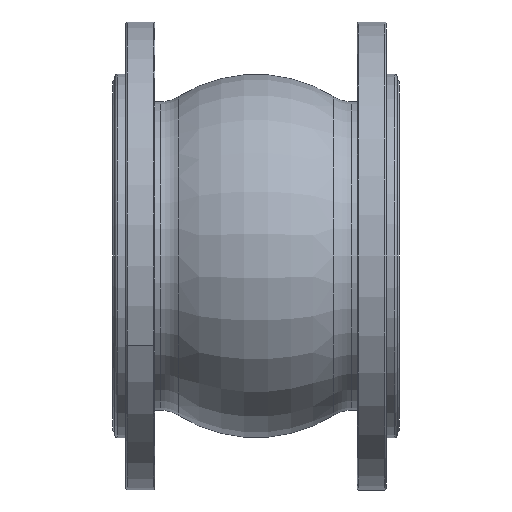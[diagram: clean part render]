
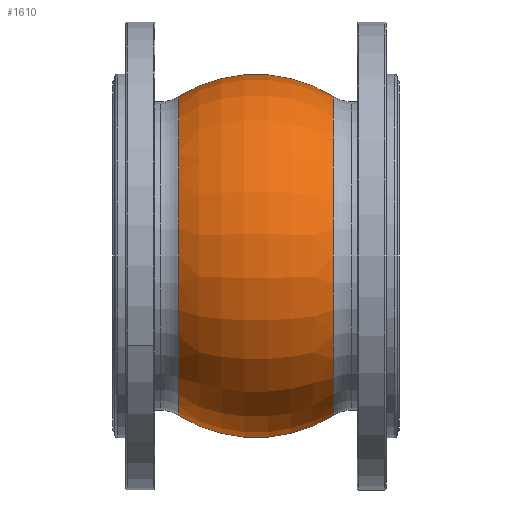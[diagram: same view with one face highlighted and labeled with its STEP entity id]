
A CAD part, front view. The second image highlights one B-rep face of the part: STEP entity #1610.
In plain terms, the highlighted toroidal (fillet/blend) face has major radius 26.07 mm and minor radius 105.93 mm.
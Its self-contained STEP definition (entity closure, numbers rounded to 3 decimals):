
#46 = VERTEX_POINT ( 'NONE', #1883 ) ;
#86 = DIRECTION ( 'NONE',  ( 0., -1., 0. ) ) ;
#346 = DIRECTION ( 'NONE',  ( 0., 0., 1. ) ) ;
#436 = DIRECTION ( 'NONE',  ( 0., 0., -1. ) ) ;
#499 = ORIENTED_EDGE ( 'NONE', *, *, #4628, .F. ) ;
#531 = CIRCLE ( 'NONE', #4243, 105.93 ) ;
#1086 = CARTESIAN_POINT ( 'NONE',  ( 0., 0., -26.07 ) ) ;
#1136 = TOROIDAL_SURFACE ( 'NONE', #2226, 26.07, 105.93 ) ;
#1437 = DIRECTION ( 'NONE',  ( 0., 0., 1. ) ) ;
#1457 = CARTESIAN_POINT ( 'NONE',  ( 56.27, 0., 0. ) ) ;
#1511 = CARTESIAN_POINT ( 'NONE',  ( -56.27, 0., -115.819 ) ) ;
#1610 = ADVANCED_FACE ( 'NONE', ( #2610 ), #1136, .T. ) ;
#1691 = CARTESIAN_POINT ( 'NONE',  ( 56.27, 0., -115.819 ) ) ;
#1812 = VERTEX_POINT ( 'NONE', #1691 ) ;
#1883 = CARTESIAN_POINT ( 'NONE',  ( 56.27, 0., 115.819 ) ) ;
#1950 = CARTESIAN_POINT ( 'NONE',  ( -56.27, 0., 0. ) ) ;
#2124 = DIRECTION ( 'NONE',  ( -1., 0., 0. ) ) ;
#2197 = AXIS2_PLACEMENT_3D ( 'NONE', #1086, #4053, #346 ) ;
#2226 = AXIS2_PLACEMENT_3D ( 'NONE', #3107, #4203, #3859 ) ;
#2358 = EDGE_CURVE ( 'NONE', #1812, #3478, #3067, .T. ) ;
#2368 = ORIENTED_EDGE ( 'NONE', *, *, #4023, .T. ) ;
#2502 = ORIENTED_EDGE ( 'NONE', *, *, #3856, .T. ) ;
#2539 = ORIENTED_EDGE ( 'NONE', *, *, #2358, .F. ) ;
#2610 = FACE_OUTER_BOUND ( 'NONE', #3670, .T. ) ;
#3067 = CIRCLE ( 'NONE', #2197, 105.93 ) ;
#3107 = CARTESIAN_POINT ( 'NONE',  ( 0., 0., 0. ) ) ;
#3385 = AXIS2_PLACEMENT_3D ( 'NONE', #1457, #2124, #1437 ) ;
#3478 = VERTEX_POINT ( 'NONE', #1511 ) ;
#3495 = VERTEX_POINT ( 'NONE', #3764 ) ;
#3670 = EDGE_LOOP ( 'NONE', ( #2539, #2502, #2368, #499 ) ) ;
#3764 = CARTESIAN_POINT ( 'NONE',  ( -56.27, 0., 115.819 ) ) ;
#3856 = EDGE_CURVE ( 'NONE', #1812, #46, #4512, .T. ) ;
#3859 = DIRECTION ( 'NONE',  ( 0., 0., 1. ) ) ;
#4023 = EDGE_CURVE ( 'NONE', #46, #3495, #531, .T. ) ;
#4053 = DIRECTION ( 'NONE',  ( 0., 1., 0. ) ) ;
#4090 = CARTESIAN_POINT ( 'NONE',  ( 0., 0., 26.07 ) ) ;
#4203 = DIRECTION ( 'NONE',  ( -1., 0., 0. ) ) ;
#4243 = AXIS2_PLACEMENT_3D ( 'NONE', #4090, #86, #436 ) ;
#4497 = CIRCLE ( 'NONE', #4704, 115.819 ) ;
#4511 = DIRECTION ( 'NONE',  ( 0., 0., 1. ) ) ;
#4512 = CIRCLE ( 'NONE', #3385, 115.819 ) ;
#4529 = DIRECTION ( 'NONE',  ( -1., 0., 0. ) ) ;
#4628 = EDGE_CURVE ( 'NONE', #3478, #3495, #4497, .T. ) ;
#4704 = AXIS2_PLACEMENT_3D ( 'NONE', #1950, #4529, #4511 ) ;
